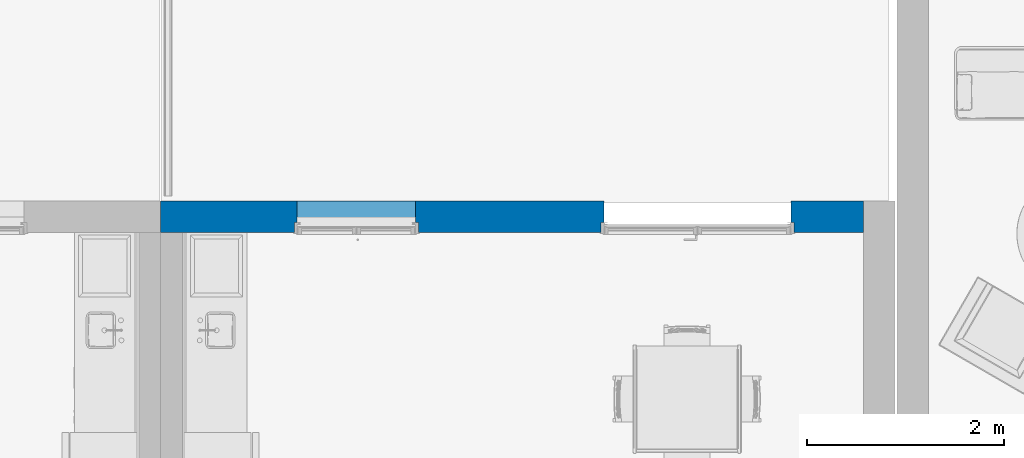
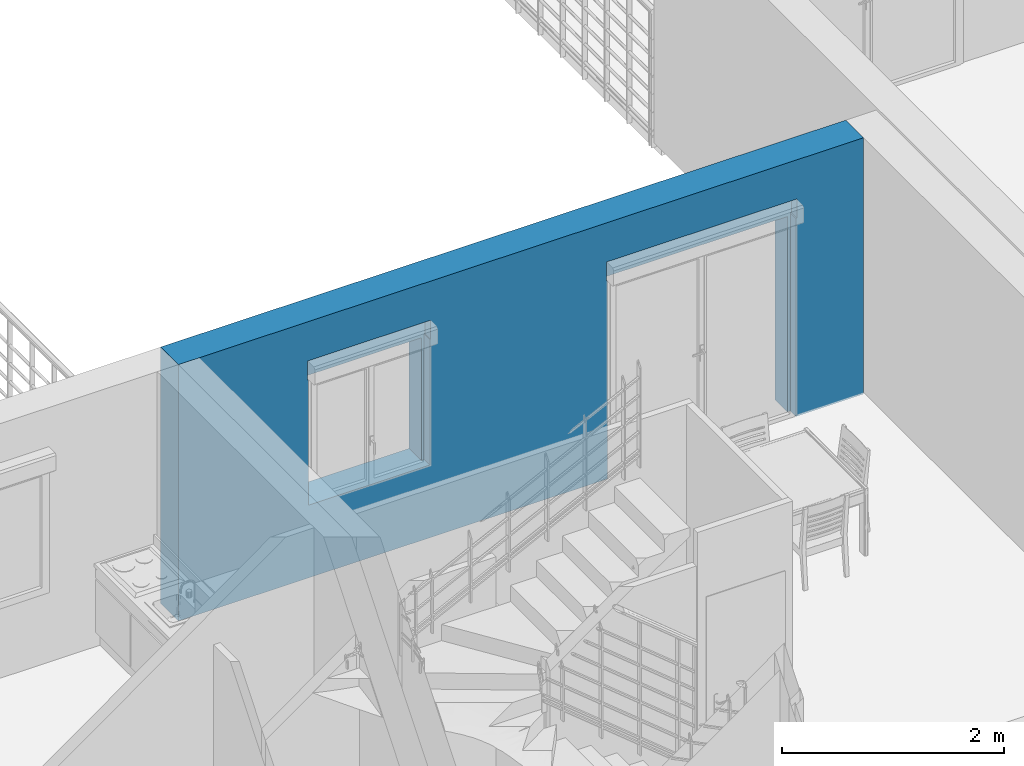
# One storey, part 12 of 30: 1 wall, 2 openings.
"""IFC2X3 building model written with IfcOpenShell, lengths in metres."""

from ifc_helpers import new_model, entity, si_unit, converted_unit, derived_unit, direction, frame, frame_2d, origin, place, context, subcontext, project, spatial, rectangle, extrude, faceted_brep, material, layer, layer_set, layer_usage, type_object, element, save


model = new_model("IFC2X3")

# Units and contexts
model_context = context("Model", 3, precision=1e-05, world=origin(), true_north=direction((6.12303176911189e-17, 1.0)))
body_context = subcontext(model_context, "Body", "Model", "MODEL_VIEW")
ifc_project = project(units=[si_unit("LENGTHUNIT", "METRE"), si_unit("AREAUNIT", "SQUARE_METRE"), si_unit("VOLUMEUNIT", "CUBIC_METRE"), converted_unit("PLANEANGLEUNIT", "DEGREE", entity("IfcRatioMeasure", 0.0174532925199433), si_unit("PLANEANGLEUNIT", "RADIAN"), dimensions=[0, 0, 0, 0, 0, 0, 0]), si_unit("MASSUNIT", "GRAM", prefix="KILO"), derived_unit("MASSDENSITYUNIT", [(si_unit("MASSUNIT", "GRAM", prefix="KILO"), 1), (si_unit("LENGTHUNIT", "METRE"), -3)]), si_unit("TIMEUNIT", "SECOND"), si_unit("FREQUENCYUNIT", "HERTZ"), si_unit("THERMODYNAMICTEMPERATUREUNIT", "DEGREE_CELSIUS"), derived_unit("THERMALTRANSMITTANCEUNIT", [(si_unit("MASSUNIT", "GRAM", prefix="KILO"), 1), (si_unit("THERMODYNAMICTEMPERATUREUNIT", "KELVIN"), -1), (si_unit("TIMEUNIT", "SECOND"), -3)]), derived_unit("VOLUMETRICFLOWRATEUNIT", [(si_unit("LENGTHUNIT", "METRE"), 3), (si_unit("TIMEUNIT", "SECOND"), -1)]), si_unit("ELECTRICCURRENTUNIT", "AMPERE"), si_unit("ELECTRICVOLTAGEUNIT", "VOLT"), si_unit("POWERUNIT", "WATT"), si_unit("FORCEUNIT", "NEWTON", prefix="KILO"), si_unit("ILLUMINANCEUNIT", "LUX"), si_unit("LUMINOUSFLUXUNIT", "LUMEN"), si_unit("LUMINOUSINTENSITYUNIT", "CANDELA"), derived_unit("USERDEFINED", [(si_unit("MASSUNIT", "GRAM", prefix="KILO"), -1), (si_unit("LENGTHUNIT", "METRE"), -2), (si_unit("TIMEUNIT", "SECOND"), 3), (si_unit("LUMINOUSFLUXUNIT", "LUMEN"), 1)]), derived_unit("LINEARVELOCITYUNIT", [(si_unit("LENGTHUNIT", "METRE"), 1), (si_unit("TIMEUNIT", "SECOND"), -1)]), si_unit("PRESSUREUNIT", "PASCAL"), derived_unit("USERDEFINED", [(si_unit("LENGTHUNIT", "METRE"), -2), (si_unit("MASSUNIT", "GRAM", prefix="KILO"), 1), (si_unit("TIMEUNIT", "SECOND"), -2)])], contexts=[model_context])

# Site, building, storey
site_placement = place(None, origin())
site = spatial("IfcSite", under=ifc_project, at=site_placement, Name="Surface", CompositionType="ELEMENT")
building_placement = place(site_placement, origin())
building = spatial("IfcBuilding", under=site, at=building_placement, CompositionType="ELEMENT")
storey_placement = place(building_placement, origin())
storey = spatial("IfcBuildingStorey", under=building, at=storey_placement, Name="Plan des fondations  Maisons 1 et 2", CompositionType="ELEMENT", Elevation=0.0)

# Wall, openings
ifc_material_1 = material(Name="Enduit blanc cassé2")
ifc_layer_1 = layer(ifc_material_1, 0.02)
ifc_material_2 = material(Name="Parpaing")
ifc_layer_2 = layer(ifc_material_2, 0.2)
ifc_material_3 = material(Name="Isolant")
ifc_layer_3 = layer(ifc_material_3, 0.1)
ifc_layer_set = layer_set([ifc_layer_1, ifc_layer_2, ifc_layer_3], Name="Mur de base:Ext. Parpaing 20 + Isolant 10 enduit blanc cassé")
ifc_layer_usage = layer_usage(ifc_layer_set, "AXIS2", "POSITIVE", -0.16)
wall_type = type_object("IfcWallType", Name="Mur de base:Ext. Parpaing 20 + Isolant 10 enduit blanc cassé", PredefinedType="STANDARD", material=ifc_layer_set)
wall_placement = place(storey_placement, frame((75.962889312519, 88.2677566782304, 0.0), z_axis=(0.0, 0.0, 1.0), x_axis=(-1.0, 0.0, 0.0)))
wall = element("IfcWallStandardCase", 1, at=wall_placement, inside=storey, type_object=wall_type, material=ifc_layer_usage, Name="Mur de base:Ext. Parpaing 20 + Isolant 10 enduit blanc cassé", ObjectType="Mur de base:Ext. Parpaing 20 + Isolant 10 enduit blanc cassé", context=body_context, shape_type="SweptSolid", body=[
    extrude(rectangle(XDim=7.1282629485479, YDim=0.319999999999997, at=frame_2d((3.56413147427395, 0.0), x_axis=(-1.0, 0.0))), origin(), (0.0, 0.0, 1.0), 2.82),
])
opening_1_placement = place(wall_placement, frame((2.67305014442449, 0.259999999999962, 0.0), z_axis=(0.0, 0.0, 1.0), x_axis=(-1.0, 0.0, 0.0)))
element("IfcOpeningElement", 2, at=opening_1_placement, cuts=wall, Name="Mur de base:Ext. Parpaing 20 + Isolant 10 enduit blanc cassé", ObjectType="Opening", context=body_context, shape_type="Brep", body=[
    faceted_brep([(1.93997696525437, 0.720000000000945, 2.15), (0.0399769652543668, 0.720000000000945, 2.15), (0.0399769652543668, 0.199999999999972, 2.15), (1.93997696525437, 0.199999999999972, 2.15), (0.0399769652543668, 0.720000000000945, 0.0), (1.93997696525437, 0.720000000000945, 0.0), (1.93997696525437, 0.199999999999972, 0.0), (1.96997696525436, 0.199999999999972, 0.0), (1.96997696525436, 0.0999999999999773, 0.0), (1.93997696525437, 0.0999999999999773, 0.0), (1.93997696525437, 0.0, 0.0), (0.0399769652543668, 0.0, 0.0), (0.0399769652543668, 0.0999999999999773, 0.0), (0.00997696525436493, 0.0999999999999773, 0.0), (0.00997696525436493, 0.199999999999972, 0.0), (0.0399769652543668, 0.199999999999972, 0.0), (1.93997696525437, 0.0, 2.15), (0.0399769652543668, 0.0, 2.15), (1.96997696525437, 0.0999999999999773, 2.18), (1.97995393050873, 0.0999999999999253, 2.18000000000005), (1.97995393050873, 0.0999999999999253, 2.39000000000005), (0.0, 0.0999999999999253, 2.39000000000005), (0.0, 0.0999999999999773, 2.18000000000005), (0.00997696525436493, 0.0999999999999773, 2.18), (0.0399769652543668, 0.0999999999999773, 2.15), (1.93997696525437, 0.0999999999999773, 2.15), (1.96997696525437, 0.199999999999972, 2.18000000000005), (0.00997696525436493, 0.199999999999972, 2.18000000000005), (0.0, 0.199999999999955, 2.18000000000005), (0.0, 0.199999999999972, 2.39000000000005), (1.97995393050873, 0.199999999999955, 2.39000000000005), (1.97995393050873, 0.199999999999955, 2.18000000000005)], [[[0, 1, 2, 3]], [[4, 5, 6, 7, 8, 9, 10, 11, 12, 13, 14, 15]], [[1, 0, 5, 4]], [[5, 0, 3, 6]], [[16, 17, 11, 10]], [[1, 4, 15, 2]], [[9, 8, 18, 19, 20, 21, 22, 23, 13, 12, 24, 25]], [[8, 7, 26, 18]], [[7, 6, 3, 2, 15, 14, 27, 28, 29, 30, 31, 26]], [[13, 23, 27, 14]], [[31, 30, 20, 19]], [[28, 22, 21, 29]], [[31, 19, 18, 26]], [[20, 30, 29, 21]], [[22, 28, 27, 23]], [[11, 17, 24, 12]], [[16, 10, 9, 25]], [[17, 16, 25, 24]]]),
])
opening_2_placement = place(wall_placement, frame((5.78220465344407, 0.259999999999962, 0.799999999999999), z_axis=(0.0, 0.0, 1.0), x_axis=(-1.0, 0.0, 0.0)))
element("IfcOpeningElement", 3, at=opening_2_placement, cuts=wall, Name="Mur de base:Ext. Parpaing 20 + Isolant 10 enduit blanc cassé", ObjectType="Opening", context=body_context, shape_type="Brep", body=[
    faceted_brep([(1.24, 0.0, 1.35), (1.24, 0.0999999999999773, 1.35), (0.0400000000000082, 0.0999999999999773, 1.35), (0.0400000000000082, 0.0, 1.35), (1.24, 0.720000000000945, 0.0), (1.24, 0.199999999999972, 0.0), (1.27000000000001, 0.199999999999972, 0.0), (1.27000000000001, 0.0999999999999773, 0.0), (1.24, 0.0999999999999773, 0.0), (1.24, 0.0, 0.0), (0.0400000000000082, 0.0, 0.0), (0.0400000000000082, 0.0999999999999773, 0.0), (0.0100000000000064, 0.0999999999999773, 0.0), (0.0100000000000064, 0.199999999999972, 0.0), (0.0400000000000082, 0.199999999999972, 0.0), (0.0400000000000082, 0.720000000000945, 0.0), (1.24, 0.720000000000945, 1.35), (0.0400000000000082, 0.720000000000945, 1.35), (1.24, 0.199999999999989, 1.35), (1.27, 0.0999999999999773, 1.38), (1.28000000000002, 0.100000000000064, 1.38000000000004), (1.28000000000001, 0.100000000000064, 1.59000000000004), (0.0, 0.100000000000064, 1.59000000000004), (0.0, 0.0999999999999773, 1.38000000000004), (0.0100000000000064, 0.0999999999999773, 1.38), (0.0100000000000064, 0.199999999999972, 1.38), (0.0, 0.199999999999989, 1.38000000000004), (0.0, 0.199999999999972, 1.59000000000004), (1.28000000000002, 0.199999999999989, 1.59000000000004), (1.28000000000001, 0.199999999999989, 1.38000000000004), (1.27000000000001, 0.199999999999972, 1.38), (0.0399999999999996, 0.199999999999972, 1.35)], [[[0, 1, 2, 3]], [[4, 5, 6, 7, 8, 9, 10, 11, 12, 13, 14, 15]], [[16, 4, 15, 17]], [[3, 2, 11, 10]], [[3, 10, 9, 0]], [[16, 18, 5, 4]], [[11, 2, 1, 8, 7, 19, 20, 21, 22, 23, 24, 12]], [[12, 24, 25, 13]], [[13, 25, 26, 27, 28, 29, 30, 6, 5, 18, 31, 14]], [[7, 6, 30, 19]], [[26, 23, 22, 27]], [[29, 28, 21, 20]], [[26, 25, 24, 23]], [[22, 21, 28, 27]], [[20, 19, 30, 29]], [[9, 8, 1, 0]], [[15, 14, 31, 17]], [[17, 31, 18, 16]]]),
])

save(model, "model.ifc")
